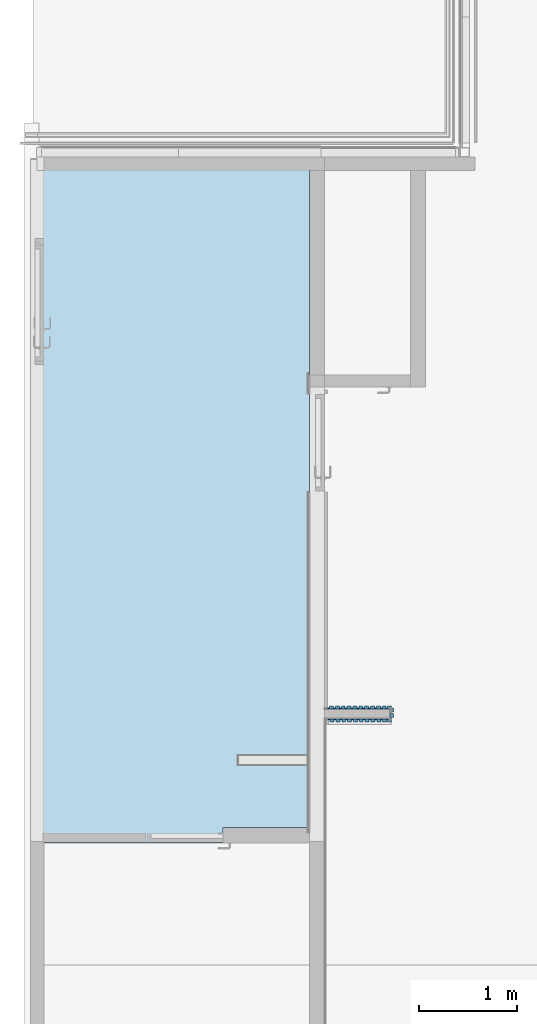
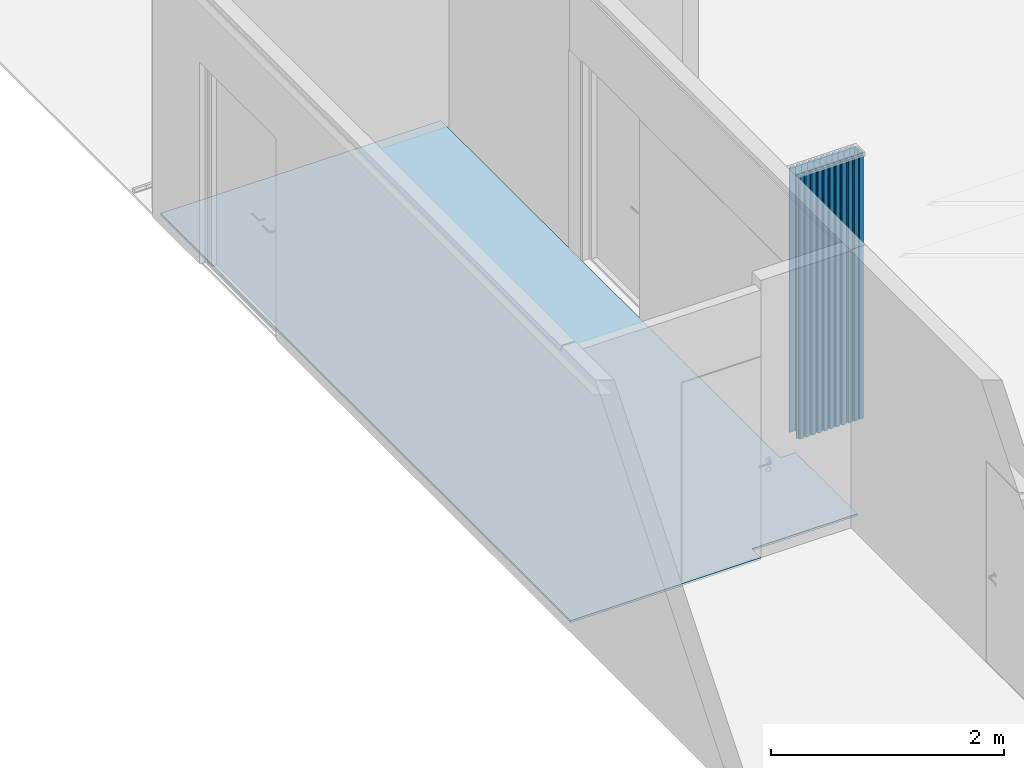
# One storey, part 13 of 37: 24 plates, 1 slab, 3 elements without a shape of their own.
"""IFC2X3 building model written with IfcOpenShell, lengths in millimetres."""

from ifc_helpers import new_model, entity, si_unit, converted_unit, derived_unit, direction, frame, frame_2d, origin, origin_with_axes, place, context, subcontext, project, spatial, polyline, rectangle, outline, extrude, source, transform, mapped, material, material_list, layer, layer_set, layer_usage, type_object, element, aggregate, save


model = new_model("IFC2X3")

# Units and contexts
model_context = context("Model", 3, precision=0.01, world=frame((0.0, 4.29681676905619e-09, 0.0)), true_north=direction((4.01073788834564e-13, 1.0)))
plan_context = context("Plan", 3, precision=0.01, world=frame((0.0, 4.29681676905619e-09, 0.0)), true_north=direction((4.01073788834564e-13, 1.0)))
body_context = subcontext(model_context, "Body", "Model", "MODEL_VIEW")
ifc_project = project(units=[converted_unit("PLANEANGLEUNIT", "DEGREE", entity("IfcPositiveLengthMeasure", 0.0174532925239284), si_unit("PLANEANGLEUNIT", "RADIAN"), dimensions=[0, 0, 0, 0, 0, 0, 0]), si_unit("AREAUNIT", "SQUARE_METRE"), si_unit("LENGTHUNIT", "METRE", prefix="MILLI"), si_unit("MASSUNIT", "GRAM", prefix="KILO"), si_unit("POWERUNIT", "WATT"), si_unit("PRESSUREUNIT", "PASCAL"), si_unit("FORCEUNIT", "NEWTON", prefix="KILO"), si_unit("ELECTRICVOLTAGEUNIT", "VOLT"), si_unit("ELECTRICCURRENTUNIT", "AMPERE"), si_unit("THERMODYNAMICTEMPERATUREUNIT", "DEGREE_CELSIUS"), si_unit("TIMEUNIT", "SECOND"), si_unit("VOLUMEUNIT", "CUBIC_METRE"), derived_unit("LINEARVELOCITYUNIT", [(si_unit("LENGTHUNIT", "METRE"), 1), (si_unit("TIMEUNIT", "SECOND"), -1)]), derived_unit("VOLUMETRICFLOWRATEUNIT", [(si_unit("VOLUMEUNIT", "CUBIC_METRE"), 1), (si_unit("TIMEUNIT", "SECOND"), -1)]), derived_unit("THERMALTRANSMITTANCEUNIT", [(si_unit("POWERUNIT", "WATT"), 1), (si_unit("THERMODYNAMICTEMPERATUREUNIT", "KELVIN"), -1), (si_unit("AREAUNIT", "SQUARE_METRE"), -1)]), derived_unit("SOUNDPRESSUREUNIT", [(si_unit("PRESSUREUNIT", "PASCAL"), 1)])], contexts=[model_context, plan_context])

# Site, building, storey
site_placement = place(None, origin_with_axes())
site = spatial("IfcSite", under=ifc_project, at=site_placement, Name="ENGM", CompositionType="ELEMENT")
building_placement = place(site_placement, origin_with_axes())
building = spatial("IfcBuilding", under=site, at=building_placement, Name="TS", CompositionType="ELEMENT")
storey_placement = place(building_placement, frame((0.0, 0.0, 210900.0), z_axis=(0.0, 0.0, 1.0), x_axis=(1.0, 0.0, 0.0)))
storey = spatial("IfcBuildingStorey", under=building, at=storey_placement, Name="Nivå F", CompositionType="ELEMENT", Elevation=210900.0)

# Curtain wall, plates
curtain_wall_type = type_object("IfcCurtainWallType", PredefinedType="NOTDEFINED")
curtain_wall_1_placement = place(storey_placement, frame((0.0, 0.0, -210900.0), z_axis=(0.0, 0.0, 1.0), x_axis=(1.0, 0.0, 0.0)))
curtain_wall_1 = element("IfcCurtainWall", 1, at=curtain_wall_1_placement, inside=storey, type_object=curtain_wall_type)
ifc_material_1 = material(Name="MDF plate svart")
ifc_material_2 = material(Name="Wood")
ifc_material_list = material_list([ifc_material_1, ifc_material_2])
plate_type_1 = type_object("IfcPlateType", Name="Spiler_40 x 20:Spiler_40 x 20", PredefinedType="CURTAIN_PANEL", material=ifc_material_list)
shared_shape_1 = source(origin(), body_context, "Body", "SweptSolid", [
    extrude(rectangle(XDim=60.0, YDim=12.0, at=frame_2d((3.5527136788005e-15, 1.33226762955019e-15), x_axis=(1.0, 0.0))), frame((-10.0, 6.0, 0.0), z_axis=(0.0, 0.0, 1.0), x_axis=(-1.0, 0.0, 0.0)), (0.0, 0.0, 1.0), 2760.0),
    extrude(rectangle(XDim=20.0000000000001, YDim=39.9999999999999, at=frame_2d((0.0, 8.88178419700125e-15), x_axis=(1.0, 0.0))), frame((0.0, 22.0, 0.0), z_axis=(0.0, 0.0, 1.0), x_axis=(0.0, 1.0, 0.0)), (0.0, 0.0, 1.0), 2760.0),
])
plate_1_placement = place(curtain_wall_1_placement, frame((523604.500000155, 451989.919299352, 211000.0), z_axis=(0.0, 0.0, 1.0), x_axis=(1.0, 0.0, 0.0)))
plate_1 = element("IfcPlate", 2, at=plate_1_placement, type_object=plate_type_1, material=ifc_material_list, Name="Spiler_40 x 20:Spiler_40 x 20", ObjectType="Spiler_40 x 20:Spiler_40 x 20", context=body_context, shape_type="MappedRepresentation", body=[
    mapped(shared_shape_1, transform((0.0, 0.0, 0.0), scale=1.0)),
])
plate_type_2 = type_object("IfcPlateType", Name="Spiler_40 x 20:Spiler_40 x 20", PredefinedType="CURTAIN_PANEL", material=ifc_material_list)
plate_2_placement = place(curtain_wall_1_placement, frame((523664.500000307, 451989.919299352, 211000.0), z_axis=(0.0, 0.0, 1.0), x_axis=(1.0, 0.0, 0.0)))
plate_2 = element("IfcPlate", 3, at=plate_2_placement, type_object=plate_type_2, material=ifc_material_list, Name="Spiler_40 x 20:Spiler_40 x 20", ObjectType="Spiler_40 x 20:Spiler_40 x 20", context=body_context, shape_type="MappedRepresentation", body=[
    mapped(shared_shape_1, transform((0.0, 0.0, 0.0), scale=1.0)),
])
plate_3_placement = place(curtain_wall_1_placement, frame((523724.500000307, 451989.919299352, 211000.0), z_axis=(0.0, 0.0, 1.0), x_axis=(1.0, 0.0, 0.0)))
plate_3 = element("IfcPlate", 4, at=plate_3_placement, type_object=plate_type_2, material=ifc_material_list, Name="Spiler_40 x 20:Spiler_40 x 20", ObjectType="Spiler_40 x 20:Spiler_40 x 20", context=body_context, shape_type="MappedRepresentation", body=[
    mapped(shared_shape_1, transform((0.0, 0.0, 0.0), scale=1.0)),
])
plate_4_placement = place(curtain_wall_1_placement, frame((523784.500000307, 451989.919299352, 211000.0), z_axis=(0.0, 0.0, 1.0), x_axis=(1.0, 0.0, 0.0)))
plate_4 = element("IfcPlate", 5, at=plate_4_placement, type_object=plate_type_2, material=ifc_material_list, Name="Spiler_40 x 20:Spiler_40 x 20", ObjectType="Spiler_40 x 20:Spiler_40 x 20", context=body_context, shape_type="MappedRepresentation", body=[
    mapped(shared_shape_1, transform((0.0, 0.0, 0.0), scale=1.0)),
])
plate_5_placement = place(curtain_wall_1_placement, frame((523844.500000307, 451989.919299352, 211000.0), z_axis=(0.0, 0.0, 1.0), x_axis=(1.0, 0.0, 0.0)))
plate_5 = element("IfcPlate", 6, at=plate_5_placement, type_object=plate_type_2, material=ifc_material_list, Name="Spiler_40 x 20:Spiler_40 x 20", ObjectType="Spiler_40 x 20:Spiler_40 x 20", context=body_context, shape_type="MappedRepresentation", body=[
    mapped(shared_shape_1, transform((0.0, 0.0, 0.0), scale=1.0)),
])
plate_6_placement = place(curtain_wall_1_placement, frame((523904.500000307, 451989.919299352, 211000.0), z_axis=(0.0, 0.0, 1.0), x_axis=(1.0, 0.0, 0.0)))
plate_6 = element("IfcPlate", 7, at=plate_6_placement, type_object=plate_type_2, material=ifc_material_list, Name="Spiler_40 x 20:Spiler_40 x 20", ObjectType="Spiler_40 x 20:Spiler_40 x 20", context=body_context, shape_type="MappedRepresentation", body=[
    mapped(shared_shape_1, transform((0.0, 0.0, 0.0), scale=1.0)),
])
plate_7_placement = place(curtain_wall_1_placement, frame((523964.500000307, 451989.919299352, 211000.0), z_axis=(0.0, 0.0, 1.0), x_axis=(1.0, 0.0, 0.0)))
plate_7 = element("IfcPlate", 8, at=plate_7_placement, type_object=plate_type_2, material=ifc_material_list, Name="Spiler_40 x 20:Spiler_40 x 20", ObjectType="Spiler_40 x 20:Spiler_40 x 20", context=body_context, shape_type="MappedRepresentation", body=[
    mapped(shared_shape_1, transform((0.0, 0.0, 0.0), scale=1.0)),
])
plate_8_placement = place(curtain_wall_1_placement, frame((524024.500000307, 451989.919299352, 211000.0), z_axis=(0.0, 0.0, 1.0), x_axis=(1.0, 0.0, 0.0)))
plate_8 = element("IfcPlate", 9, at=plate_8_placement, type_object=plate_type_2, material=ifc_material_list, Name="Spiler_40 x 20:Spiler_40 x 20", ObjectType="Spiler_40 x 20:Spiler_40 x 20", context=body_context, shape_type="MappedRepresentation", body=[
    mapped(shared_shape_1, transform((0.0, 0.0, 0.0), scale=1.0)),
])
plate_9_placement = place(curtain_wall_1_placement, frame((524084.500000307, 451989.919299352, 211000.0), z_axis=(0.0, 0.0, 1.0), x_axis=(1.0, 0.0, 0.0)))
plate_9 = element("IfcPlate", 10, at=plate_9_placement, type_object=plate_type_2, material=ifc_material_list, Name="Spiler_40 x 20:Spiler_40 x 20", ObjectType="Spiler_40 x 20:Spiler_40 x 20", context=body_context, shape_type="MappedRepresentation", body=[
    mapped(shared_shape_1, transform((0.0, 0.0, 0.0), scale=1.0)),
])
plate_10_placement = place(curtain_wall_1_placement, frame((524144.500000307, 451989.919299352, 211000.0), z_axis=(0.0, 0.0, 1.0), x_axis=(1.0, 0.0, 0.0)))
plate_10 = element("IfcPlate", 11, at=plate_10_placement, type_object=plate_type_2, material=ifc_material_list, Name="Spiler_40 x 20:Spiler_40 x 20", ObjectType="Spiler_40 x 20:Spiler_40 x 20", context=body_context, shape_type="MappedRepresentation", body=[
    mapped(shared_shape_1, transform((0.0, 0.0, 0.0), scale=1.0)),
])
plate_type_3 = type_object("IfcPlateType", Name="Spiler_40 x 20:Spiler_40 x 20", PredefinedType="CURTAIN_PANEL", material=ifc_material_list)
plate_11_placement = place(curtain_wall_1_placement, frame((524197.000000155, 451989.919299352, 211000.0), z_axis=(0.0, 0.0, 1.0), x_axis=(1.0, 0.0, 0.0)))
plate_11 = element("IfcPlate", 12, at=plate_11_placement, type_object=plate_type_3, material=ifc_material_list, Name="Spiler_40 x 20:Spiler_40 x 20", ObjectType="Spiler_40 x 20:Spiler_40 x 20", context=body_context, shape_type="MappedRepresentation", body=[
    mapped(shared_shape_1, transform((0.0, 0.0, 0.0), scale=1.0)),
])
aggregate(curtain_wall_1, [plate_1, plate_2, plate_3, plate_4, plate_5, plate_6, plate_7, plate_8, plate_9, plate_10, plate_11])

curtain_wall_2_placement = place(storey_placement, frame((0.0, 0.0, -210900.0), z_axis=(0.0, 0.0, 1.0), x_axis=(1.0, 0.0, 0.0)))
curtain_wall_2 = element("IfcCurtainWall", 13, at=curtain_wall_2_placement, inside=storey, type_object=curtain_wall_type)
plate_type_4 = type_object("IfcPlateType", Name="Spiler_40 x 20:Spiler_40 x 20", PredefinedType="CURTAIN_PANEL", material=ifc_material_list)
shared_shape_2 = source(origin(), body_context, "Body", "SweptSolid", [
    extrude(rectangle(XDim=12.0, YDim=60.0, at=frame_2d((-2.22044604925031e-15, 3.5527136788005e-15), x_axis=(1.0, 0.0))), frame((-10.0, -6.0, 0.0), z_axis=(0.0, 0.0, 1.0), x_axis=(0.0, 1.0, 0.0)), (0.0, 0.0, 1.0), 2760.0),
    extrude(rectangle(XDim=39.9999999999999, YDim=20.0000000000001, at=frame_2d((8.88178419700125e-15, 0.0), x_axis=(1.0, 0.0))), frame((0.0, -22.0, 0.0), z_axis=(0.0, 0.0, 1.0), x_axis=(-1.0, 0.0, 0.0)), (0.0, 0.0, 1.0), 2760.0),
])
plate_12_placement = place(curtain_wall_2_placement, frame((523609.500000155, 451889.919299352, 211000.0), z_axis=(0.0, 0.0, 1.0), x_axis=(1.0, 0.0, 0.0)))
plate_12 = element("IfcPlate", 14, at=plate_12_placement, type_object=plate_type_4, material=ifc_material_list, Name="Spiler_40 x 20:Spiler_40 x 20", ObjectType="Spiler_40 x 20:Spiler_40 x 20", context=body_context, shape_type="MappedRepresentation", body=[
    mapped(shared_shape_2, transform((0.0, 0.0, 0.0), scale=1.0)),
])
plate_type_5 = type_object("IfcPlateType", Name="Spiler_40 x 20:Spiler_40 x 20", PredefinedType="CURTAIN_PANEL", material=ifc_material_list)
plate_13_placement = place(curtain_wall_2_placement, frame((523669.500000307, 451889.919299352, 211000.0), z_axis=(0.0, 0.0, 1.0), x_axis=(1.0, 0.0, 0.0)))
plate_13 = element("IfcPlate", 15, at=plate_13_placement, type_object=plate_type_5, material=ifc_material_list, Name="Spiler_40 x 20:Spiler_40 x 20", ObjectType="Spiler_40 x 20:Spiler_40 x 20", context=body_context, shape_type="MappedRepresentation", body=[
    mapped(shared_shape_2, transform((0.0, 0.0, 0.0), scale=1.0)),
])
plate_14_placement = place(curtain_wall_2_placement, frame((523729.500000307, 451889.919299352, 211000.0), z_axis=(0.0, 0.0, 1.0), x_axis=(1.0, 0.0, 0.0)))
plate_14 = element("IfcPlate", 16, at=plate_14_placement, type_object=plate_type_5, material=ifc_material_list, Name="Spiler_40 x 20:Spiler_40 x 20", ObjectType="Spiler_40 x 20:Spiler_40 x 20", context=body_context, shape_type="MappedRepresentation", body=[
    mapped(shared_shape_2, transform((0.0, 0.0, 0.0), scale=1.0)),
])
plate_15_placement = place(curtain_wall_2_placement, frame((523789.500000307, 451889.919299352, 211000.0), z_axis=(0.0, 0.0, 1.0), x_axis=(1.0, 0.0, 0.0)))
plate_15 = element("IfcPlate", 17, at=plate_15_placement, type_object=plate_type_5, material=ifc_material_list, Name="Spiler_40 x 20:Spiler_40 x 20", ObjectType="Spiler_40 x 20:Spiler_40 x 20", context=body_context, shape_type="MappedRepresentation", body=[
    mapped(shared_shape_2, transform((0.0, 0.0, 0.0), scale=1.0)),
])
plate_16_placement = place(curtain_wall_2_placement, frame((523849.500000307, 451889.919299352, 211000.0), z_axis=(0.0, 0.0, 1.0), x_axis=(1.0, 0.0, 0.0)))
plate_16 = element("IfcPlate", 18, at=plate_16_placement, type_object=plate_type_5, material=ifc_material_list, Name="Spiler_40 x 20:Spiler_40 x 20", ObjectType="Spiler_40 x 20:Spiler_40 x 20", context=body_context, shape_type="MappedRepresentation", body=[
    mapped(shared_shape_2, transform((0.0, 0.0, 0.0), scale=1.0)),
])
plate_17_placement = place(curtain_wall_2_placement, frame((523909.500000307, 451889.919299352, 211000.0), z_axis=(0.0, 0.0, 1.0), x_axis=(1.0, 0.0, 0.0)))
plate_17 = element("IfcPlate", 19, at=plate_17_placement, type_object=plate_type_5, material=ifc_material_list, Name="Spiler_40 x 20:Spiler_40 x 20", ObjectType="Spiler_40 x 20:Spiler_40 x 20", context=body_context, shape_type="MappedRepresentation", body=[
    mapped(shared_shape_2, transform((0.0, 0.0, 0.0), scale=1.0)),
])
plate_18_placement = place(curtain_wall_2_placement, frame((523969.500000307, 451889.919299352, 211000.0), z_axis=(0.0, 0.0, 1.0), x_axis=(1.0, 0.0, 0.0)))
plate_18 = element("IfcPlate", 20, at=plate_18_placement, type_object=plate_type_5, material=ifc_material_list, Name="Spiler_40 x 20:Spiler_40 x 20", ObjectType="Spiler_40 x 20:Spiler_40 x 20", context=body_context, shape_type="MappedRepresentation", body=[
    mapped(shared_shape_2, transform((0.0, 0.0, 0.0), scale=1.0)),
])
plate_19_placement = place(curtain_wall_2_placement, frame((524029.500000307, 451889.919299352, 211000.0), z_axis=(0.0, 0.0, 1.0), x_axis=(1.0, 0.0, 0.0)))
plate_19 = element("IfcPlate", 21, at=plate_19_placement, type_object=plate_type_5, material=ifc_material_list, Name="Spiler_40 x 20:Spiler_40 x 20", ObjectType="Spiler_40 x 20:Spiler_40 x 20", context=body_context, shape_type="MappedRepresentation", body=[
    mapped(shared_shape_2, transform((0.0, 0.0, 0.0), scale=1.0)),
])
plate_20_placement = place(curtain_wall_2_placement, frame((524089.500000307, 451889.919299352, 211000.0), z_axis=(0.0, 0.0, 1.0), x_axis=(1.0, 0.0, 0.0)))
plate_20 = element("IfcPlate", 22, at=plate_20_placement, type_object=plate_type_5, material=ifc_material_list, Name="Spiler_40 x 20:Spiler_40 x 20", ObjectType="Spiler_40 x 20:Spiler_40 x 20", context=body_context, shape_type="MappedRepresentation", body=[
    mapped(shared_shape_2, transform((0.0, 0.0, 0.0), scale=1.0)),
])
plate_21_placement = place(curtain_wall_2_placement, frame((524149.500000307, 451889.919299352, 211000.0), z_axis=(0.0, 0.0, 1.0), x_axis=(1.0, 0.0, 0.0)))
plate_21 = element("IfcPlate", 23, at=plate_21_placement, type_object=plate_type_5, material=ifc_material_list, Name="Spiler_40 x 20:Spiler_40 x 20", ObjectType="Spiler_40 x 20:Spiler_40 x 20", context=body_context, shape_type="MappedRepresentation", body=[
    mapped(shared_shape_2, transform((0.0, 0.0, 0.0), scale=1.0)),
])
plate_type_6 = type_object("IfcPlateType", Name="Spiler_40 x 20:Spiler_40 x 20", PredefinedType="CURTAIN_PANEL", material=ifc_material_list)
plate_22_placement = place(curtain_wall_2_placement, frame((524199.500000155, 451889.919299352, 211000.0), z_axis=(0.0, 0.0, 1.0), x_axis=(1.0, 0.0, 0.0)))
plate_22 = element("IfcPlate", 24, at=plate_22_placement, type_object=plate_type_6, material=ifc_material_list, Name="Spiler_40 x 20:Spiler_40 x 20", ObjectType="Spiler_40 x 20:Spiler_40 x 20", context=body_context, shape_type="MappedRepresentation", body=[
    mapped(shared_shape_2, transform((0.0, 0.0, 0.0), scale=1.0)),
])
aggregate(curtain_wall_2, [plate_12, plate_13, plate_14, plate_15, plate_16, plate_17, plate_18, plate_19, plate_20, plate_21, plate_22])

curtain_wall_3_placement = place(storey_placement, frame((0.0, 0.0, -210900.0), z_axis=(0.0, 0.0, 1.0), x_axis=(1.0, 0.0, 0.0)))
curtain_wall_3 = element("IfcCurtainWall", 25, at=curtain_wall_3_placement, inside=storey, type_object=curtain_wall_type)
plate_type_7 = type_object("IfcPlateType", Name="Spiler_40 x 20:Spiler_40 x 20", PredefinedType="CURTAIN_PANEL", material=ifc_material_list)
plate_23_placement = place(curtain_wall_3_placement, frame((524207.500000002, 451981.919299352, 211000.0), z_axis=(0.0, 0.0, 1.0), x_axis=(0.0, 1.0, 0.0)))
plate_23 = element("IfcPlate", 26, at=plate_23_placement, type_object=plate_type_7, material=ifc_material_list, Name="Spiler_40 x 20:Spiler_40 x 20", ObjectType="Spiler_40 x 20:Spiler_40 x 20", context=body_context, shape_type="MappedRepresentation", body=[
    mapped(shared_shape_2, transform((0.0, 0.0, 0.0), scale=1.0)),
])
plate_type_8 = type_object("IfcPlateType", Name="Spiler_40 x 20_enkel:Spiler_40 x 20_enkel", PredefinedType="CURTAIN_PANEL", material=ifc_material_list)
shared_shape_3 = source(origin(), body_context, "Body", "SweptSolid", [
    extrude(rectangle(XDim=12.0, YDim=39.9999999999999, at=frame_2d((0.0, 3.5527136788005e-15), x_axis=(1.0, 0.0))), frame((0.0, -6.0, 0.0), z_axis=(0.0, 0.0, 1.0), x_axis=(0.0, 1.0, 0.0)), (0.0, 0.0, 1.0), 2760.0),
    extrude(rectangle(XDim=39.9999999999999, YDim=20.0000000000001, at=frame_2d((8.88178419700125e-15, 0.0), x_axis=(1.0, 0.0))), frame((0.0, -22.0, 0.0), z_axis=(0.0, 0.0, 1.0), x_axis=(-1.0, 0.0, 0.0)), (0.0, 0.0, 1.0), 2760.0),
])
plate_24_placement = place(curtain_wall_3_placement, frame((524207.500000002, 451921.919299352, 211000.0), z_axis=(0.0, 0.0, 1.0), x_axis=(0.0, 1.0, 0.0)))
plate_24 = element("IfcPlate", 27, at=plate_24_placement, type_object=plate_type_8, material=ifc_material_list, Name="Spiler_40 x 20_enkel:Spiler_40 x 20_enkel", ObjectType="Spiler_40 x 20_enkel:Spiler_40 x 20_enkel", context=body_context, shape_type="MappedRepresentation", body=[
    mapped(shared_shape_3, transform((0.0, 0.0, 0.0), scale=1.0)),
])
aggregate(curtain_wall_3, [plate_24, plate_23])

# Slab
ifc_material_3 = material(Name="_NSW Gulv (Generell)")
ifc_layer_1 = layer(ifc_material_3, 4.0)
ifc_material_4 = material(Name="T2_Mørtel")
ifc_layer_2 = layer(ifc_material_4, 18.0)
ifc_layer_set = layer_set([ifc_layer_1, ifc_layer_2], Name="Floor:A254 - GU-B01 - Banebelegg 22")
ifc_layer_usage = layer_usage(ifc_layer_set, "AXIS3", "POSITIVE", 0.0)
slab_type = type_object("IfcSlabType", Name="Floor:A254 - GU-B01 - Banebelegg 22", PredefinedType="FLOOR", material=ifc_layer_set)
slab_placement = place(storey_placement, origin_with_axes())
element("IfcSlab", 28, at=slab_placement, inside=storey, type_object=slab_type, material=ifc_layer_usage, Name="Floor:A254 - GU-B01 - Banebelegg 22", ObjectType="Floor:A254 - GU-B01 - Banebelegg 22", PredefinedType="FLOOR", context=body_context, shape_type="SweptSolid", body=[
    extrude(outline(polyline([(-2100.44501560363, -1897.0), (4931.33504681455, -1897.0), (4931.33504681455, 877.0), (-885.445015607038, 877.0), (-885.445015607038, 1032.0), (-1945.44501560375, 1032.0), (-1945.44501560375, -12.0), (-2100.44501560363, -12.0), (-2100.44501560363, -1897.0)])), frame((522502.500000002, 452717.945015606, 0.0), z_axis=(0.0, 0.0, -1.0), x_axis=(0.0, 1.0, 0.0)), (0.0, 0.0, 1.0), 21.999999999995),
])

save(model, "model.ifc")
